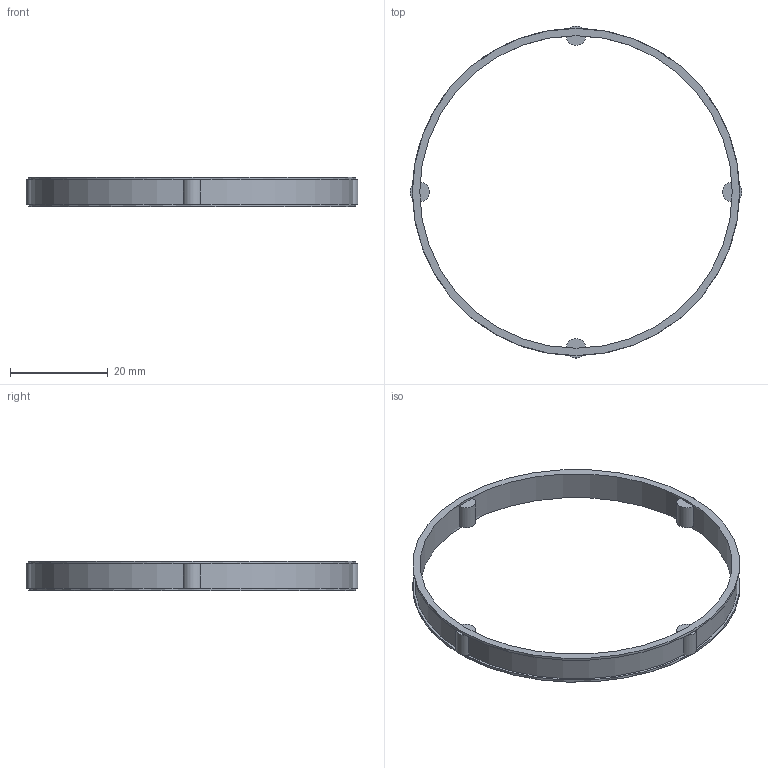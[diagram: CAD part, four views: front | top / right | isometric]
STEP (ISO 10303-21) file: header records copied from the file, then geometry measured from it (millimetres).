
FILE_DESCRIPTION(/* description */ (''),/* implementation_level */ '2;1');
FILE_NAME(/* name */ '303151 RL 468 - 4.stp',/* time_stamp */ '2016-11-10T15:40:36+01:00',/* author */ (''),/* organization */ (''),/* preprocessor_version */ 'ST-DEVELOPER v15',/* originating_system */ 'SIEMENS PLM Software NX 8.5',/* authorisation */ '');
FILE_SCHEMA (('CONFIG_CONTROL_DESIGN'));
Length unit declared in the file: millimetre
Products named in the file (1): ATE0000098_01
Bounding box: 67.99 x 67.99 x 6 mm (x, y, z)
Volume: 1503.9 mm3; surface area: 3382.9 mm2
Topology: 1 solids, 1 shells, 41 faces, 92 edges, 56 vertices
Faces by surface type: plane 26, cylinder 15
Full cylindrical faces by diameter (mm): 64 x1, 67 x2
Entity records: 1198 total; most frequent: DIRECTION 236, CARTESIAN_POINT 178, ORIENTED_EDGE 168, AXIS2_PLACEMENT_3D 110, EDGE_CURVE 84, CIRCLE 68, VERTEX_POINT 52, EDGE_LOOP 50
